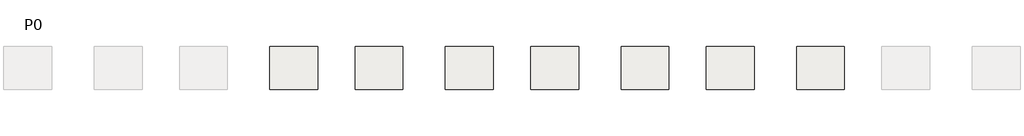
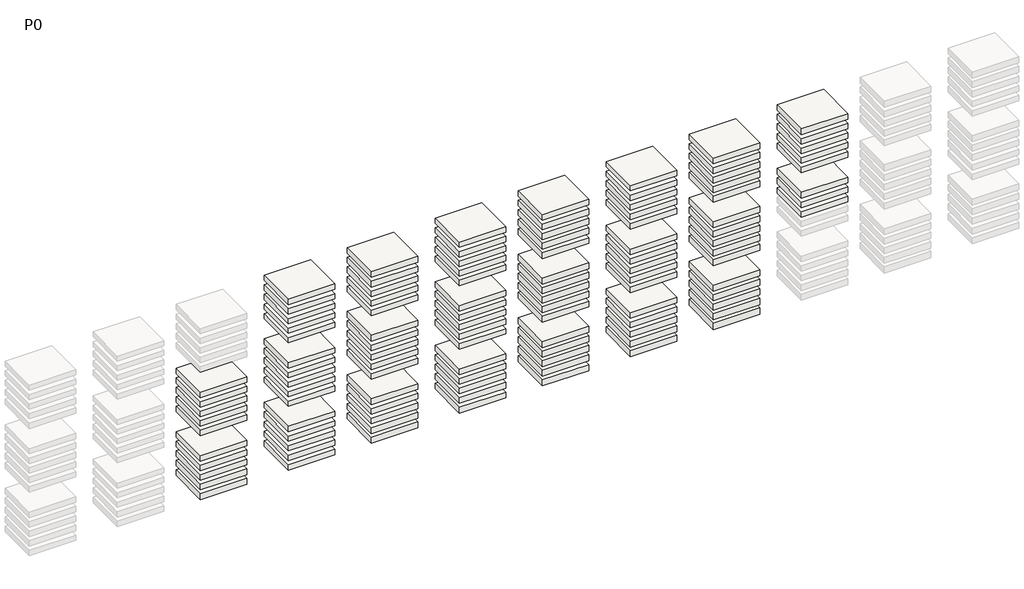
# One storey, part 6 of 11: 108 slabs.
"""IFC4 building model written with IfcOpenShell, lengths in millimetres."""

from ifc_helpers import new_model, si_unit, frame, origin, place, context, project, spatial, polyline, outline, extrude, element, save

model = new_model("IFC4")

# Units and contexts
model_context = context("Model", 3, world=origin())
ifc_project = project(units=[si_unit("LENGTHUNIT", "METRE", prefix="MILLI")], contexts=[model_context])

# Site, building, storey
site = spatial("IfcSite", under=ifc_project)
building = spatial("IfcBuilding", under=site)
storey = spatial("IfcBuildingStorey", under=building, Name="P0", Elevation=0.0)

# Slabs
placement = place(None, origin())
element("IfcSlab", 1, ObjectType="NNEH23 H9", at=placement, inside=storey, context=model_context, shape_type="SweptSolid", body=[
    extrude(outline(polyline([(135850.1564071, 1686.0689128), (135850.1564071, -1013.9310872), (132850.1564071, -1013.9310872), (132850.1564071, 1686.0689128), (135850.1564071, 1686.0689128)])), frame((0.0, 0.0, -11859.5322376), z_axis=(0.0, 0.0, 1.0), x_axis=(1.0, 0.0, 0.0)), (0.0, 0.0, 1.0), 378.0),
])
element("IfcSlab", 2, ObjectType="NNEH23 H9", at=placement, inside=storey, context=model_context, shape_type="SweptSolid", body=[
    extrude(outline(polyline([(135850.1564071, 1686.0689128), (135850.1564071, -1013.9310872), (132850.1564071, -1013.9310872), (132850.1564071, 1686.0689128), (135850.1564071, 1686.0689128)])), frame((0.0, 0.0, -12509.5322376), z_axis=(0.0, 0.0, 1.0), x_axis=(1.0, 0.0, 0.0)), (0.0, 0.0, 1.0), 378.0),
])
element("IfcSlab", 3, ObjectType="NNEH23 H9", at=placement, inside=storey, context=model_context, shape_type="SweptSolid", body=[
    extrude(outline(polyline([(135850.1564071, 1686.0689128), (135850.1564071, -1013.9310872), (132850.1564071, -1013.9310872), (132850.1564071, 1686.0689128), (135850.1564071, 1686.0689128)])), frame((0.0, 0.0, -13159.5322376), z_axis=(0.0, 0.0, 1.0), x_axis=(1.0, 0.0, 0.0)), (0.0, 0.0, 1.0), 378.0),
])
element("IfcSlab", 4, ObjectType="NNEH23 H9", at=placement, inside=storey, context=model_context, shape_type="SweptSolid", body=[
    extrude(outline(polyline([(135850.1564071, 1686.0689128), (135850.1564071, -1013.9310872), (132850.1564071, -1013.9310872), (132850.1564071, 1686.0689128), (135850.1564071, 1686.0689128)])), frame((0.0, 0.0, -13809.5322376), z_axis=(0.0, 0.0, 1.0), x_axis=(1.0, 0.0, 0.0)), (0.0, 0.0, 1.0), 378.0),
])
element("IfcSlab", 5, ObjectType="NNEH23 H9", at=placement, inside=storey, context=model_context, shape_type="SweptSolid", body=[
    extrude(outline(polyline([(135850.1564071, 1686.0689128), (135850.1564071, -1013.9310872), (132850.1564071, -1013.9310872), (132850.1564071, 1686.0689128), (135850.1564071, 1686.0689128)])), frame((0.0, 0.0, -14459.5322376), z_axis=(0.0, 0.0, 1.0), x_axis=(1.0, 0.0, 0.0)), (0.0, 0.0, 1.0), 378.0),
])
element("IfcSlab", 6, ObjectType="NNEH23 H10", at=placement, inside=storey, context=model_context, shape_type="SweptSolid", body=[
    extrude(outline(polyline([(135850.1564071, 1686.0689128), (135850.1564071, -1013.9310872), (132850.1564071, -1013.9310872), (132850.1564071, 1686.0689128), (135850.1564071, 1686.0689128)])), frame((0.0, 0.0, -16189.5323192), z_axis=(0.0, 0.0, 1.0), x_axis=(1.0, 0.0, 0.0)), (0.0, 0.0, 1.0), 388.0),
])
element("IfcSlab", 7, ObjectType="NNEH23 H10", at=placement, inside=storey, context=model_context, shape_type="SweptSolid", body=[
    extrude(outline(polyline([(135850.1564071, 1686.0689128), (135850.1564071, -1013.9310872), (132850.1564071, -1013.9310872), (132850.1564071, 1686.0689128), (135850.1564071, 1686.0689128)])), frame((0.0, 0.0, -16839.5323192), z_axis=(0.0, 0.0, 1.0), x_axis=(1.0, 0.0, 0.0)), (0.0, 0.0, 1.0), 388.0),
])
element("IfcSlab", 8, ObjectType="NNEH23 H10", at=placement, inside=storey, context=model_context, shape_type="SweptSolid", body=[
    extrude(outline(polyline([(135850.1564071, 1686.0689128), (135850.1564071, -1013.9310872), (132850.1564071, -1013.9310872), (132850.1564071, 1686.0689128), (135850.1564071, 1686.0689128)])), frame((0.0, 0.0, -17489.5323192), z_axis=(0.0, 0.0, 1.0), x_axis=(1.0, 0.0, 0.0)), (0.0, 0.0, 1.0), 388.0),
])
element("IfcSlab", 9, ObjectType="NNEH23 H10", at=placement, inside=storey, context=model_context, shape_type="SweptSolid", body=[
    extrude(outline(polyline([(135850.1564071, 1686.0689128), (135850.1564071, -1013.9310872), (132850.1564071, -1013.9310872), (132850.1564071, 1686.0689128), (135850.1564071, 1686.0689128)])), frame((0.0, 0.0, -18139.5323192), z_axis=(0.0, 0.0, 1.0), x_axis=(1.0, 0.0, 0.0)), (0.0, 0.0, 1.0), 388.0),
])
element("IfcSlab", 10, ObjectType="NNEH23 H10", at=placement, inside=storey, context=model_context, shape_type="SweptSolid", body=[
    extrude(outline(polyline([(135850.1564071, 1686.0689128), (135850.1564071, -1013.9310872), (132850.1564071, -1013.9310872), (132850.1564071, 1686.0689128), (135850.1564071, 1686.0689128)])), frame((0.0, 0.0, -18789.5323192), z_axis=(0.0, 0.0, 1.0), x_axis=(1.0, 0.0, 0.0)), (0.0, 0.0, 1.0), 388.0),
])
element("IfcSlab", 11, ObjectType="NNEH24 H5", at=placement, inside=storey, context=model_context, shape_type="SweptSolid", body=[
    extrude(outline(polyline([(141510.1564071, 1686.0689128), (141510.1564071, -1013.9310872), (138510.1564071, -1013.9310872), (138510.1564071, 1686.0689128), (141510.1564071, 1686.0689128)])), frame((0.0, 0.0, -7509.5324008), z_axis=(0.0, 0.0, 1.0), x_axis=(1.0, 0.0, 0.0)), (0.0, 0.0, 1.0), 348.0),
])
element("IfcSlab", 12, ObjectType="NNEH24 H5", at=placement, inside=storey, context=model_context, shape_type="SweptSolid", body=[
    extrude(outline(polyline([(141510.1564071, 1686.0689128), (141510.1564071, -1013.9310872), (138510.1564071, -1013.9310872), (138510.1564071, 1686.0689128), (141510.1564071, 1686.0689128)])), frame((0.0, 0.0, -8159.5323192), z_axis=(0.0, 0.0, 1.0), x_axis=(1.0, 0.0, 0.0)), (0.0, 0.0, 1.0), 348.0),
])
element("IfcSlab", 13, ObjectType="NNEH24 H5", at=placement, inside=storey, context=model_context, shape_type="SweptSolid", body=[
    extrude(outline(polyline([(141510.1564071, 1686.0689128), (141510.1564071, -1013.9310872), (138510.1564071, -1013.9310872), (138510.1564071, 1686.0689128), (141510.1564071, 1686.0689128)])), frame((0.0, 0.0, -8809.5323192), z_axis=(0.0, 0.0, 1.0), x_axis=(1.0, 0.0, 0.0)), (0.0, 0.0, 1.0), 348.0),
])
element("IfcSlab", 14, ObjectType="NNEH24 H5", at=placement, inside=storey, context=model_context, shape_type="SweptSolid", body=[
    extrude(outline(polyline([(141510.1564071, 1686.0689128), (141510.1564071, -1013.9310872), (138510.1564071, -1013.9310872), (138510.1564071, 1686.0689128), (141510.1564071, 1686.0689128)])), frame((0.0, 0.0, -9459.5323192), z_axis=(0.0, 0.0, 1.0), x_axis=(1.0, 0.0, 0.0)), (0.0, 0.0, 1.0), 348.0),
])
element("IfcSlab", 15, ObjectType="NNEH24 H5", at=placement, inside=storey, context=model_context, shape_type="SweptSolid", body=[
    extrude(outline(polyline([(141510.1564071, 1686.0689128), (141510.1564071, -1013.9310872), (138510.1564071, -1013.9310872), (138510.1564071, 1686.0689128), (141510.1564071, 1686.0689128)])), frame((0.0, 0.0, -10109.5324008), z_axis=(0.0, 0.0, 1.0), x_axis=(1.0, 0.0, 0.0)), (0.0, 0.0, 1.0), 348.0),
])
element("IfcSlab", 16, ObjectType="NNEH24 H6", at=placement, inside=storey, context=model_context, shape_type="SweptSolid", body=[
    extrude(outline(polyline([(141510.1564071, 1686.0689128), (141510.1564071, -1013.9310872), (138510.1564071, -1013.9310872), (138510.1564071, 1686.0689128), (141510.1564071, 1686.0689128)])), frame((0.0, 0.0, -11839.5322376), z_axis=(0.0, 0.0, 1.0), x_axis=(1.0, 0.0, 0.0)), (0.0, 0.0, 1.0), 358.0),
])
element("IfcSlab", 17, ObjectType="NNEH24 H6", at=placement, inside=storey, context=model_context, shape_type="SweptSolid", body=[
    extrude(outline(polyline([(141510.1564071, 1686.0689128), (141510.1564071, -1013.9310872), (138510.1564071, -1013.9310872), (138510.1564071, 1686.0689128), (141510.1564071, 1686.0689128)])), frame((0.0, 0.0, -12489.5322376), z_axis=(0.0, 0.0, 1.0), x_axis=(1.0, 0.0, 0.0)), (0.0, 0.0, 1.0), 358.0),
])
element("IfcSlab", 18, ObjectType="NNEH24 H6", at=placement, inside=storey, context=model_context, shape_type="SweptSolid", body=[
    extrude(outline(polyline([(141510.1564071, 1686.0689128), (141510.1564071, -1013.9310872), (138510.1564071, -1013.9310872), (138510.1564071, 1686.0689128), (141510.1564071, 1686.0689128)])), frame((0.0, 0.0, -13139.5322376), z_axis=(0.0, 0.0, 1.0), x_axis=(1.0, 0.0, 0.0)), (0.0, 0.0, 1.0), 358.0),
])
element("IfcSlab", 19, ObjectType="NNEH24 H6", at=placement, inside=storey, context=model_context, shape_type="SweptSolid", body=[
    extrude(outline(polyline([(141510.1564071, 1686.0689128), (141510.1564071, -1013.9310872), (138510.1564071, -1013.9310872), (138510.1564071, 1686.0689128), (141510.1564071, 1686.0689128)])), frame((0.0, 0.0, -13789.5322376), z_axis=(0.0, 0.0, 1.0), x_axis=(1.0, 0.0, 0.0)), (0.0, 0.0, 1.0), 358.0),
])
element("IfcSlab", 20, ObjectType="NNEH24 H6", at=placement, inside=storey, context=model_context, shape_type="SweptSolid", body=[
    extrude(outline(polyline([(141510.1564071, 1686.0689128), (141510.1564071, -1013.9310872), (138510.1564071, -1013.9310872), (138510.1564071, 1686.0689128), (141510.1564071, 1686.0689128)])), frame((0.0, 0.0, -14439.5322376), z_axis=(0.0, 0.0, 1.0), x_axis=(1.0, 0.0, 0.0)), (0.0, 0.0, 1.0), 358.0),
])
element("IfcSlab", 21, ObjectType="NNEH24 H7", at=placement, inside=storey, context=model_context, shape_type="SweptSolid", body=[
    extrude(outline(polyline([(141510.1564071, 1686.0689128), (141510.1564071, -1013.9310872), (138510.1564071, -1013.9310872), (138510.1564071, 1686.0689128), (141510.1564071, 1686.0689128)])), frame((0.0, 0.0, -16169.5323192), z_axis=(0.0, 0.0, 1.0), x_axis=(1.0, 0.0, 0.0)), (0.0, 0.0, 1.0), 368.0),
])
element("IfcSlab", 22, ObjectType="NNEH24 H7", at=placement, inside=storey, context=model_context, shape_type="SweptSolid", body=[
    extrude(outline(polyline([(141510.1564071, 1686.0689128), (141510.1564071, -1013.9310872), (138510.1564071, -1013.9310872), (138510.1564071, 1686.0689128), (141510.1564071, 1686.0689128)])), frame((0.0, 0.0, -16819.5323192), z_axis=(0.0, 0.0, 1.0), x_axis=(1.0, 0.0, 0.0)), (0.0, 0.0, 1.0), 368.0),
])
element("IfcSlab", 23, ObjectType="NNEH24 H7", at=placement, inside=storey, context=model_context, shape_type="SweptSolid", body=[
    extrude(outline(polyline([(141510.1564071, 1686.0689128), (141510.1564071, -1013.9310872), (138510.1564071, -1013.9310872), (138510.1564071, 1686.0689128), (141510.1564071, 1686.0689128)])), frame((0.0, 0.0, -17469.5323192), z_axis=(0.0, 0.0, 1.0), x_axis=(1.0, 0.0, 0.0)), (0.0, 0.0, 1.0), 368.0),
])
element("IfcSlab", 24, ObjectType="NNEH24 H7", at=placement, inside=storey, context=model_context, shape_type="SweptSolid", body=[
    extrude(outline(polyline([(141510.1564071, 1686.0689128), (141510.1564071, -1013.9310872), (138510.1564071, -1013.9310872), (138510.1564071, 1686.0689128), (141510.1564071, 1686.0689128)])), frame((0.0, 0.0, -18119.5323192), z_axis=(0.0, 0.0, 1.0), x_axis=(1.0, 0.0, 0.0)), (0.0, 0.0, 1.0), 368.0),
])
element("IfcSlab", 25, ObjectType="NNEH24 H7", at=placement, inside=storey, context=model_context, shape_type="SweptSolid", body=[
    extrude(outline(polyline([(141510.1564071, 1686.0689128), (141510.1564071, -1013.9310872), (138510.1564071, -1013.9310872), (138510.1564071, 1686.0689128), (141510.1564071, 1686.0689128)])), frame((0.0, 0.0, -18769.5323192), z_axis=(0.0, 0.0, 1.0), x_axis=(1.0, 0.0, 0.0)), (0.0, 0.0, 1.0), 368.0),
])
element("IfcSlab", 26, ObjectType="NNEH24 H8", at=placement, inside=storey, context=model_context, shape_type="SweptSolid", body=[
    extrude(outline(polyline([(146850.1564071, 1686.0689128), (146850.1564071, -1013.9310872), (143850.1564071, -1013.9310872), (143850.1564071, 1686.0689128), (146850.1564071, 1686.0689128)])), frame((0.0, 0.0, -7539.5323192), z_axis=(0.0, 0.0, 1.0), x_axis=(1.0, 0.0, 0.0)), (0.0, 0.0, 1.0), 378.0),
])
element("IfcSlab", 27, ObjectType="NNEH24 H8", at=placement, inside=storey, context=model_context, shape_type="SweptSolid", body=[
    extrude(outline(polyline([(146850.1564071, 1686.0689128), (146850.1564071, -1013.9310872), (143850.1564071, -1013.9310872), (143850.1564071, 1686.0689128), (146850.1564071, 1686.0689128)])), frame((0.0, 0.0, -8189.5323192), z_axis=(0.0, 0.0, 1.0), x_axis=(1.0, 0.0, 0.0)), (0.0, 0.0, 1.0), 378.0),
])
element("IfcSlab", 28, ObjectType="NNEH24 H8", at=placement, inside=storey, context=model_context, shape_type="SweptSolid", body=[
    extrude(outline(polyline([(146850.1564071, 1686.0689128), (146850.1564071, -1013.9310872), (143850.1564071, -1013.9310872), (143850.1564071, 1686.0689128), (146850.1564071, 1686.0689128)])), frame((0.0, 0.0, -8839.5323192), z_axis=(0.0, 0.0, 1.0), x_axis=(1.0, 0.0, 0.0)), (0.0, 0.0, 1.0), 378.0),
])
element("IfcSlab", 29, ObjectType="NNEH24 H8", at=placement, inside=storey, context=model_context, shape_type="SweptSolid", body=[
    extrude(outline(polyline([(146850.1564071, 1686.0689128), (146850.1564071, -1013.9310872), (143850.1564071, -1013.9310872), (143850.1564071, 1686.0689128), (146850.1564071, 1686.0689128)])), frame((0.0, 0.0, -9489.5323192), z_axis=(0.0, 0.0, 1.0), x_axis=(1.0, 0.0, 0.0)), (0.0, 0.0, 1.0), 378.0),
])
element("IfcSlab", 30, ObjectType="NNEH24 H8", at=placement, inside=storey, context=model_context, shape_type="SweptSolid", body=[
    extrude(outline(polyline([(146850.1564071, 1686.0689128), (146850.1564071, -1013.9310872), (143850.1564071, -1013.9310872), (143850.1564071, 1686.0689128), (146850.1564071, 1686.0689128)])), frame((0.0, 0.0, -10139.5324008), z_axis=(0.0, 0.0, 1.0), x_axis=(1.0, 0.0, 0.0)), (0.0, 0.0, 1.0), 378.0),
])
element("IfcSlab", 31, ObjectType="NNEH24 H9", at=placement, inside=storey, context=model_context, shape_type="SweptSolid", body=[
    extrude(outline(polyline([(146850.1564071, 1686.0689128), (146850.1564071, -1013.9310872), (143850.1564071, -1013.9310872), (143850.1564071, 1686.0689128), (146850.1564071, 1686.0689128)])), frame((0.0, 0.0, -11869.5322376), z_axis=(0.0, 0.0, 1.0), x_axis=(1.0, 0.0, 0.0)), (0.0, 0.0, 1.0), 388.0),
])
element("IfcSlab", 32, ObjectType="NNEH24 H9", at=placement, inside=storey, context=model_context, shape_type="SweptSolid", body=[
    extrude(outline(polyline([(146850.1564071, 1686.0689128), (146850.1564071, -1013.9310872), (143850.1564071, -1013.9310872), (143850.1564071, 1686.0689128), (146850.1564071, 1686.0689128)])), frame((0.0, 0.0, -12519.5322376), z_axis=(0.0, 0.0, 1.0), x_axis=(1.0, 0.0, 0.0)), (0.0, 0.0, 1.0), 388.0),
])
element("IfcSlab", 33, ObjectType="NNEH24 H9", at=placement, inside=storey, context=model_context, shape_type="SweptSolid", body=[
    extrude(outline(polyline([(146850.1564071, 1686.0689128), (146850.1564071, -1013.9310872), (143850.1564071, -1013.9310872), (143850.1564071, 1686.0689128), (146850.1564071, 1686.0689128)])), frame((0.0, 0.0, -13169.5322376), z_axis=(0.0, 0.0, 1.0), x_axis=(1.0, 0.0, 0.0)), (0.0, 0.0, 1.0), 388.0),
])
element("IfcSlab", 34, ObjectType="NNEH24 H9", at=placement, inside=storey, context=model_context, shape_type="SweptSolid", body=[
    extrude(outline(polyline([(146850.1564071, 1686.0689128), (146850.1564071, -1013.9310872), (143850.1564071, -1013.9310872), (143850.1564071, 1686.0689128), (146850.1564071, 1686.0689128)])), frame((0.0, 0.0, -13819.5322376), z_axis=(0.0, 0.0, 1.0), x_axis=(1.0, 0.0, 0.0)), (0.0, 0.0, 1.0), 388.0),
])
element("IfcSlab", 35, ObjectType="NNEH24 H9", at=placement, inside=storey, context=model_context, shape_type="SweptSolid", body=[
    extrude(outline(polyline([(146850.1564071, 1686.0689128), (146850.1564071, -1013.9310872), (143850.1564071, -1013.9310872), (143850.1564071, 1686.0689128), (146850.1564071, 1686.0689128)])), frame((0.0, 0.0, -14469.5322376), z_axis=(0.0, 0.0, 1.0), x_axis=(1.0, 0.0, 0.0)), (0.0, 0.0, 1.0), 388.0),
])
element("IfcSlab", 36, ObjectType="NNEH24 H10", at=placement, inside=storey, context=model_context, shape_type="SweptSolid", body=[
    extrude(outline(polyline([(146850.1564071, 1686.0689128), (146850.1564071, -1013.9310872), (143850.1564071, -1013.9310872), (143850.1564071, 1686.0689128), (146850.1564071, 1686.0689128)])), frame((0.0, 0.0, -16199.5323192), z_axis=(0.0, 0.0, 1.0), x_axis=(1.0, 0.0, 0.0)), (0.0, 0.0, 1.0), 398.0),
])
element("IfcSlab", 37, ObjectType="NNEH24 H10", at=placement, inside=storey, context=model_context, shape_type="SweptSolid", body=[
    extrude(outline(polyline([(146850.1564071, 1686.0689128), (146850.1564071, -1013.9310872), (143850.1564071, -1013.9310872), (143850.1564071, 1686.0689128), (146850.1564071, 1686.0689128)])), frame((0.0, 0.0, -16849.5323192), z_axis=(0.0, 0.0, 1.0), x_axis=(1.0, 0.0, 0.0)), (0.0, 0.0, 1.0), 398.0),
])
element("IfcSlab", 38, ObjectType="NNEH24 H10", at=placement, inside=storey, context=model_context, shape_type="SweptSolid", body=[
    extrude(outline(polyline([(146850.1564071, 1686.0689128), (146850.1564071, -1013.9310872), (143850.1564071, -1013.9310872), (143850.1564071, 1686.0689128), (146850.1564071, 1686.0689128)])), frame((0.0, 0.0, -17499.5323192), z_axis=(0.0, 0.0, 1.0), x_axis=(1.0, 0.0, 0.0)), (0.0, 0.0, 1.0), 398.0),
])
element("IfcSlab", 39, ObjectType="NNEH24 H10", at=placement, inside=storey, context=model_context, shape_type="SweptSolid", body=[
    extrude(outline(polyline([(146850.1564071, 1686.0689128), (146850.1564071, -1013.9310872), (143850.1564071, -1013.9310872), (143850.1564071, 1686.0689128), (146850.1564071, 1686.0689128)])), frame((0.0, 0.0, -18149.5323192), z_axis=(0.0, 0.0, 1.0), x_axis=(1.0, 0.0, 0.0)), (0.0, 0.0, 1.0), 398.0),
])
element("IfcSlab", 40, ObjectType="NNEH24 H10", at=placement, inside=storey, context=model_context, shape_type="SweptSolid", body=[
    extrude(outline(polyline([(146850.1564071, 1686.0689128), (146850.1564071, -1013.9310872), (143850.1564071, -1013.9310872), (143850.1564071, 1686.0689128), (146850.1564071, 1686.0689128)])), frame((0.0, 0.0, -18799.5323192), z_axis=(0.0, 0.0, 1.0), x_axis=(1.0, 0.0, 0.0)), (0.0, 0.0, 1.0), 398.0),
])
element("IfcSlab", 41, ObjectType="NNEH25 H5", at=placement, inside=storey, context=model_context, shape_type="SweptSolid", body=[
    extrude(outline(polyline([(152510.1564071, 1686.0689128), (152510.1564071, -1013.9310872), (149510.1564071, -1013.9310872), (149510.1564071, 1686.0689128), (152510.1564071, 1686.0689128)])), frame((0.0, 0.0, -7479.5324008), z_axis=(0.0, 0.0, 1.0), x_axis=(1.0, 0.0, 0.0)), (0.0, 0.0, 1.0), 358.0),
])
element("IfcSlab", 42, ObjectType="NNEH25 H5", at=placement, inside=storey, context=model_context, shape_type="SweptSolid", body=[
    extrude(outline(polyline([(152510.1564071, 1686.0689128), (152510.1564071, -1013.9310872), (149510.1564071, -1013.9310872), (149510.1564071, 1686.0689128), (152510.1564071, 1686.0689128)])), frame((0.0, 0.0, -8129.5323192), z_axis=(0.0, 0.0, 1.0), x_axis=(1.0, 0.0, 0.0)), (0.0, 0.0, 1.0), 358.0),
])
element("IfcSlab", 43, ObjectType="NNEH25 H5", at=placement, inside=storey, context=model_context, shape_type="SweptSolid", body=[
    extrude(outline(polyline([(152510.1564071, 1686.0689128), (152510.1564071, -1013.9310872), (149510.1564071, -1013.9310872), (149510.1564071, 1686.0689128), (152510.1564071, 1686.0689128)])), frame((0.0, 0.0, -8779.5323192), z_axis=(0.0, 0.0, 1.0), x_axis=(1.0, 0.0, 0.0)), (0.0, 0.0, 1.0), 358.0),
])
element("IfcSlab", 44, ObjectType="NNEH25 H5", at=placement, inside=storey, context=model_context, shape_type="SweptSolid", body=[
    extrude(outline(polyline([(152510.1564071, 1686.0689128), (152510.1564071, -1013.9310872), (149510.1564071, -1013.9310872), (149510.1564071, 1686.0689128), (152510.1564071, 1686.0689128)])), frame((0.0, 0.0, -9429.5323192), z_axis=(0.0, 0.0, 1.0), x_axis=(1.0, 0.0, 0.0)), (0.0, 0.0, 1.0), 358.0),
])
element("IfcSlab", 45, ObjectType="NNEH25 H5", at=placement, inside=storey, context=model_context, shape_type="SweptSolid", body=[
    extrude(outline(polyline([(152510.1564071, 1686.0689128), (152510.1564071, -1013.9310872), (149510.1564071, -1013.9310872), (149510.1564071, 1686.0689128), (152510.1564071, 1686.0689128)])), frame((0.0, 0.0, -10079.5324008), z_axis=(0.0, 0.0, 1.0), x_axis=(1.0, 0.0, 0.0)), (0.0, 0.0, 1.0), 358.0),
])
element("IfcSlab", 46, ObjectType="NNEH25 H6", at=placement, inside=storey, context=model_context, shape_type="SweptSolid", body=[
    extrude(outline(polyline([(152510.1564071, 1686.0689128), (152510.1564071, -1013.9310872), (149510.1564071, -1013.9310872), (149510.1564071, 1686.0689128), (152510.1564071, 1686.0689128)])), frame((0.0, 0.0, -11809.5322376), z_axis=(0.0, 0.0, 1.0), x_axis=(1.0, 0.0, 0.0)), (0.0, 0.0, 1.0), 368.0),
])
element("IfcSlab", 47, ObjectType="NNEH25 H6", at=placement, inside=storey, context=model_context, shape_type="SweptSolid", body=[
    extrude(outline(polyline([(152510.1564071, 1686.0689128), (152510.1564071, -1013.9310872), (149510.1564071, -1013.9310872), (149510.1564071, 1686.0689128), (152510.1564071, 1686.0689128)])), frame((0.0, 0.0, -12459.5322376), z_axis=(0.0, 0.0, 1.0), x_axis=(1.0, 0.0, 0.0)), (0.0, 0.0, 1.0), 368.0),
])
element("IfcSlab", 48, ObjectType="NNEH25 H6", at=placement, inside=storey, context=model_context, shape_type="SweptSolid", body=[
    extrude(outline(polyline([(152510.1564071, 1686.0689128), (152510.1564071, -1013.9310872), (149510.1564071, -1013.9310872), (149510.1564071, 1686.0689128), (152510.1564071, 1686.0689128)])), frame((0.0, 0.0, -13109.5322376), z_axis=(0.0, 0.0, 1.0), x_axis=(1.0, 0.0, 0.0)), (0.0, 0.0, 1.0), 368.0),
])
element("IfcSlab", 49, ObjectType="NNEH25 H6", at=placement, inside=storey, context=model_context, shape_type="SweptSolid", body=[
    extrude(outline(polyline([(152510.1564071, 1686.0689128), (152510.1564071, -1013.9310872), (149510.1564071, -1013.9310872), (149510.1564071, 1686.0689128), (152510.1564071, 1686.0689128)])), frame((0.0, 0.0, -13759.5322376), z_axis=(0.0, 0.0, 1.0), x_axis=(1.0, 0.0, 0.0)), (0.0, 0.0, 1.0), 368.0),
])
element("IfcSlab", 50, ObjectType="NNEH25 H6", at=placement, inside=storey, context=model_context, shape_type="SweptSolid", body=[
    extrude(outline(polyline([(152510.1564071, 1686.0689128), (152510.1564071, -1013.9310872), (149510.1564071, -1013.9310872), (149510.1564071, 1686.0689128), (152510.1564071, 1686.0689128)])), frame((0.0, 0.0, -14409.5322376), z_axis=(0.0, 0.0, 1.0), x_axis=(1.0, 0.0, 0.0)), (0.0, 0.0, 1.0), 368.0),
])
element("IfcSlab", 51, ObjectType="NNEH25 H7", at=placement, inside=storey, context=model_context, shape_type="SweptSolid", body=[
    extrude(outline(polyline([(152510.1564071, 1686.0689128), (152510.1564071, -1013.9310872), (149510.1564071, -1013.9310872), (149510.1564071, 1686.0689128), (152510.1564071, 1686.0689128)])), frame((0.0, 0.0, -16139.5323192), z_axis=(0.0, 0.0, 1.0), x_axis=(1.0, 0.0, 0.0)), (0.0, 0.0, 1.0), 378.0),
])
element("IfcSlab", 52, ObjectType="NNEH25 H7", at=placement, inside=storey, context=model_context, shape_type="SweptSolid", body=[
    extrude(outline(polyline([(152510.1564071, 1686.0689128), (152510.1564071, -1013.9310872), (149510.1564071, -1013.9310872), (149510.1564071, 1686.0689128), (152510.1564071, 1686.0689128)])), frame((0.0, 0.0, -16789.5323192), z_axis=(0.0, 0.0, 1.0), x_axis=(1.0, 0.0, 0.0)), (0.0, 0.0, 1.0), 378.0),
])
element("IfcSlab", 53, ObjectType="NNEH25 H7", at=placement, inside=storey, context=model_context, shape_type="SweptSolid", body=[
    extrude(outline(polyline([(152510.1564071, 1686.0689128), (152510.1564071, -1013.9310872), (149510.1564071, -1013.9310872), (149510.1564071, 1686.0689128), (152510.1564071, 1686.0689128)])), frame((0.0, 0.0, -17439.5323192), z_axis=(0.0, 0.0, 1.0), x_axis=(1.0, 0.0, 0.0)), (0.0, 0.0, 1.0), 378.0),
])
element("IfcSlab", 54, ObjectType="NNEH25 H7", at=placement, inside=storey, context=model_context, shape_type="SweptSolid", body=[
    extrude(outline(polyline([(152510.1564071, 1686.0689128), (152510.1564071, -1013.9310872), (149510.1564071, -1013.9310872), (149510.1564071, 1686.0689128), (152510.1564071, 1686.0689128)])), frame((0.0, 0.0, -18089.5323192), z_axis=(0.0, 0.0, 1.0), x_axis=(1.0, 0.0, 0.0)), (0.0, 0.0, 1.0), 378.0),
])
element("IfcSlab", 55, ObjectType="NNEH25 H7", at=placement, inside=storey, context=model_context, shape_type="SweptSolid", body=[
    extrude(outline(polyline([(152510.1564071, 1686.0689128), (152510.1564071, -1013.9310872), (149510.1564071, -1013.9310872), (149510.1564071, 1686.0689128), (152510.1564071, 1686.0689128)])), frame((0.0, 0.0, -18739.5323192), z_axis=(0.0, 0.0, 1.0), x_axis=(1.0, 0.0, 0.0)), (0.0, 0.0, 1.0), 378.0),
])
element("IfcSlab", 56, ObjectType="NNEH25 H8", at=placement, inside=storey, context=model_context, shape_type="SweptSolid", body=[
    extrude(outline(polyline([(157850.1564071, 1686.0689128), (157850.1564071, -1013.9310872), (154850.1564071, -1013.9310872), (154850.1564071, 1686.0689128), (157850.1564071, 1686.0689128)])), frame((0.0, 0.0, -7509.5323192), z_axis=(0.0, 0.0, 1.0), x_axis=(1.0, 0.0, 0.0)), (0.0, 0.0, 1.0), 388.0),
])
element("IfcSlab", 57, ObjectType="NNEH25 H8", at=placement, inside=storey, context=model_context, shape_type="SweptSolid", body=[
    extrude(outline(polyline([(157850.1564071, 1686.0689128), (157850.1564071, -1013.9310872), (154850.1564071, -1013.9310872), (154850.1564071, 1686.0689128), (157850.1564071, 1686.0689128)])), frame((0.0, 0.0, -8159.5323192), z_axis=(0.0, 0.0, 1.0), x_axis=(1.0, 0.0, 0.0)), (0.0, 0.0, 1.0), 388.0),
])
element("IfcSlab", 58, ObjectType="NNEH25 H8", at=placement, inside=storey, context=model_context, shape_type="SweptSolid", body=[
    extrude(outline(polyline([(157850.1564071, 1686.0689128), (157850.1564071, -1013.9310872), (154850.1564071, -1013.9310872), (154850.1564071, 1686.0689128), (157850.1564071, 1686.0689128)])), frame((0.0, 0.0, -8809.5323192), z_axis=(0.0, 0.0, 1.0), x_axis=(1.0, 0.0, 0.0)), (0.0, 0.0, 1.0), 388.0),
])
element("IfcSlab", 59, ObjectType="NNEH25 H8", at=placement, inside=storey, context=model_context, shape_type="SweptSolid", body=[
    extrude(outline(polyline([(157850.1564071, 1686.0689128), (157850.1564071, -1013.9310872), (154850.1564071, -1013.9310872), (154850.1564071, 1686.0689128), (157850.1564071, 1686.0689128)])), frame((0.0, 0.0, -9459.5323192), z_axis=(0.0, 0.0, 1.0), x_axis=(1.0, 0.0, 0.0)), (0.0, 0.0, 1.0), 388.0),
])
element("IfcSlab", 60, ObjectType="NNEH25 H8", at=placement, inside=storey, context=model_context, shape_type="SweptSolid", body=[
    extrude(outline(polyline([(157850.1564071, 1686.0689128), (157850.1564071, -1013.9310872), (154850.1564071, -1013.9310872), (154850.1564071, 1686.0689128), (157850.1564071, 1686.0689128)])), frame((0.0, 0.0, -10109.5324008), z_axis=(0.0, 0.0, 1.0), x_axis=(1.0, 0.0, 0.0)), (0.0, 0.0, 1.0), 388.0),
])
element("IfcSlab", 61, ObjectType="NNEH25 H9", at=placement, inside=storey, context=model_context, shape_type="SweptSolid", body=[
    extrude(outline(polyline([(157850.1564071, 1686.0689128), (157850.1564071, -1013.9310872), (154850.1564071, -1013.9310872), (154850.1564071, 1686.0689128), (157850.1564071, 1686.0689128)])), frame((0.0, 0.0, -11839.5322376), z_axis=(0.0, 0.0, 1.0), x_axis=(1.0, 0.0, 0.0)), (0.0, 0.0, 1.0), 398.0),
])
element("IfcSlab", 62, ObjectType="NNEH25 H9", at=placement, inside=storey, context=model_context, shape_type="SweptSolid", body=[
    extrude(outline(polyline([(157850.1564071, 1686.0689128), (157850.1564071, -1013.9310872), (154850.1564071, -1013.9310872), (154850.1564071, 1686.0689128), (157850.1564071, 1686.0689128)])), frame((0.0, 0.0, -12489.5322376), z_axis=(0.0, 0.0, 1.0), x_axis=(1.0, 0.0, 0.0)), (0.0, 0.0, 1.0), 398.0),
])
element("IfcSlab", 63, ObjectType="NNEH25 H9", at=placement, inside=storey, context=model_context, shape_type="SweptSolid", body=[
    extrude(outline(polyline([(157850.1564071, 1686.0689128), (157850.1564071, -1013.9310872), (154850.1564071, -1013.9310872), (154850.1564071, 1686.0689128), (157850.1564071, 1686.0689128)])), frame((0.0, 0.0, -13139.5322376), z_axis=(0.0, 0.0, 1.0), x_axis=(1.0, 0.0, 0.0)), (0.0, 0.0, 1.0), 398.0),
])
element("IfcSlab", 64, ObjectType="NNEH25 H9", at=placement, inside=storey, context=model_context, shape_type="SweptSolid", body=[
    extrude(outline(polyline([(157850.1564071, 1686.0689128), (157850.1564071, -1013.9310872), (154850.1564071, -1013.9310872), (154850.1564071, 1686.0689128), (157850.1564071, 1686.0689128)])), frame((0.0, 0.0, -13789.5322376), z_axis=(0.0, 0.0, 1.0), x_axis=(1.0, 0.0, 0.0)), (0.0, 0.0, 1.0), 398.0),
])
element("IfcSlab", 65, ObjectType="NNEH25 H9", at=placement, inside=storey, context=model_context, shape_type="SweptSolid", body=[
    extrude(outline(polyline([(157850.1564071, 1686.0689128), (157850.1564071, -1013.9310872), (154850.1564071, -1013.9310872), (154850.1564071, 1686.0689128), (157850.1564071, 1686.0689128)])), frame((0.0, 0.0, -14439.5322376), z_axis=(0.0, 0.0, 1.0), x_axis=(1.0, 0.0, 0.0)), (0.0, 0.0, 1.0), 398.0),
])
element("IfcSlab", 66, ObjectType="NNEH25 H10", at=placement, inside=storey, context=model_context, shape_type="SweptSolid", body=[
    extrude(outline(polyline([(157850.1564071, 1686.0689128), (157850.1564071, -1013.9310872), (154850.1564071, -1013.9310872), (154850.1564071, 1686.0689128), (157850.1564071, 1686.0689128)])), frame((0.0, 0.0, -16169.5323192), z_axis=(0.0, 0.0, 1.0), x_axis=(1.0, 0.0, 0.0)), (0.0, 0.0, 1.0), 408.0),
])
element("IfcSlab", 67, ObjectType="NNEH25 H10", at=placement, inside=storey, context=model_context, shape_type="SweptSolid", body=[
    extrude(outline(polyline([(157850.1564071, 1686.0689128), (157850.1564071, -1013.9310872), (154850.1564071, -1013.9310872), (154850.1564071, 1686.0689128), (157850.1564071, 1686.0689128)])), frame((0.0, 0.0, -16819.5323192), z_axis=(0.0, 0.0, 1.0), x_axis=(1.0, 0.0, 0.0)), (0.0, 0.0, 1.0), 408.0),
])
element("IfcSlab", 68, ObjectType="NNEH25 H10", at=placement, inside=storey, context=model_context, shape_type="SweptSolid", body=[
    extrude(outline(polyline([(157850.1564071, 1686.0689128), (157850.1564071, -1013.9310872), (154850.1564071, -1013.9310872), (154850.1564071, 1686.0689128), (157850.1564071, 1686.0689128)])), frame((0.0, 0.0, -17469.5323192), z_axis=(0.0, 0.0, 1.0), x_axis=(1.0, 0.0, 0.0)), (0.0, 0.0, 1.0), 408.0),
])
element("IfcSlab", 69, ObjectType="NNEH25 H10", at=placement, inside=storey, context=model_context, shape_type="SweptSolid", body=[
    extrude(outline(polyline([(157850.1564071, 1686.0689128), (157850.1564071, -1013.9310872), (154850.1564071, -1013.9310872), (154850.1564071, 1686.0689128), (157850.1564071, 1686.0689128)])), frame((0.0, 0.0, -18119.5323192), z_axis=(0.0, 0.0, 1.0), x_axis=(1.0, 0.0, 0.0)), (0.0, 0.0, 1.0), 408.0),
])
element("IfcSlab", 70, ObjectType="NNEH25 H10", at=placement, inside=storey, context=model_context, shape_type="SweptSolid", body=[
    extrude(outline(polyline([(157850.1564071, 1686.0689128), (157850.1564071, -1013.9310872), (154850.1564071, -1013.9310872), (154850.1564071, 1686.0689128), (157850.1564071, 1686.0689128)])), frame((0.0, 0.0, -18769.5323192), z_axis=(0.0, 0.0, 1.0), x_axis=(1.0, 0.0, 0.0)), (0.0, 0.0, 1.0), 408.0),
])
element("IfcSlab", 71, ObjectType="NNEH26 H5", at=placement, inside=storey, context=model_context, shape_type="SweptSolid", body=[
    extrude(outline(polyline([(163510.1564071, 1686.0689128), (163510.1564071, -1013.9310872), (160510.1564071, -1013.9310872), (160510.1564071, 1686.0689128), (163510.1564071, 1686.0689128)])), frame((0.0, 0.0, -7489.5324008), z_axis=(0.0, 0.0, 1.0), x_axis=(1.0, 0.0, 0.0)), (0.0, 0.0, 1.0), 368.0),
])
element("IfcSlab", 72, ObjectType="NNEH26 H5", at=placement, inside=storey, context=model_context, shape_type="SweptSolid", body=[
    extrude(outline(polyline([(163510.1564071, 1686.0689128), (163510.1564071, -1013.9310872), (160510.1564071, -1013.9310872), (160510.1564071, 1686.0689128), (163510.1564071, 1686.0689128)])), frame((0.0, 0.0, -8139.5323192), z_axis=(0.0, 0.0, 1.0), x_axis=(1.0, 0.0, 0.0)), (0.0, 0.0, 1.0), 368.0),
])
element("IfcSlab", 73, ObjectType="NNEH26 H5", at=placement, inside=storey, context=model_context, shape_type="SweptSolid", body=[
    extrude(outline(polyline([(163510.1564071, 1686.0689128), (163510.1564071, -1013.9310872), (160510.1564071, -1013.9310872), (160510.1564071, 1686.0689128), (163510.1564071, 1686.0689128)])), frame((0.0, 0.0, -8789.5323192), z_axis=(0.0, 0.0, 1.0), x_axis=(1.0, 0.0, 0.0)), (0.0, 0.0, 1.0), 368.0),
])
element("IfcSlab", 74, ObjectType="NNEH26 H5", at=placement, inside=storey, context=model_context, shape_type="SweptSolid", body=[
    extrude(outline(polyline([(163510.1564071, 1686.0689128), (163510.1564071, -1013.9310872), (160510.1564071, -1013.9310872), (160510.1564071, 1686.0689128), (163510.1564071, 1686.0689128)])), frame((0.0, 0.0, -9439.5323192), z_axis=(0.0, 0.0, 1.0), x_axis=(1.0, 0.0, 0.0)), (0.0, 0.0, 1.0), 368.0),
])
element("IfcSlab", 75, ObjectType="NNEH26 H5", at=placement, inside=storey, context=model_context, shape_type="SweptSolid", body=[
    extrude(outline(polyline([(163510.1564071, 1686.0689128), (163510.1564071, -1013.9310872), (160510.1564071, -1013.9310872), (160510.1564071, 1686.0689128), (163510.1564071, 1686.0689128)])), frame((0.0, 0.0, -10089.5324008), z_axis=(0.0, 0.0, 1.0), x_axis=(1.0, 0.0, 0.0)), (0.0, 0.0, 1.0), 368.0),
])
element("IfcSlab", 76, ObjectType="NNEH26 H6", at=placement, inside=storey, context=model_context, shape_type="SweptSolid", body=[
    extrude(outline(polyline([(163510.1564071, 1686.0689128), (163510.1564071, -1013.9310872), (160510.1564071, -1013.9310872), (160510.1564071, 1686.0689128), (163510.1564071, 1686.0689128)])), frame((0.0, 0.0, -11819.5322376), z_axis=(0.0, 0.0, 1.0), x_axis=(1.0, 0.0, 0.0)), (0.0, 0.0, 1.0), 378.0),
])
element("IfcSlab", 77, ObjectType="NNEH26 H6", at=placement, inside=storey, context=model_context, shape_type="SweptSolid", body=[
    extrude(outline(polyline([(163510.1564071, 1686.0689128), (163510.1564071, -1013.9310872), (160510.1564071, -1013.9310872), (160510.1564071, 1686.0689128), (163510.1564071, 1686.0689128)])), frame((0.0, 0.0, -12469.5322376), z_axis=(0.0, 0.0, 1.0), x_axis=(1.0, 0.0, 0.0)), (0.0, 0.0, 1.0), 378.0),
])
element("IfcSlab", 78, ObjectType="NNEH26 H6", at=placement, inside=storey, context=model_context, shape_type="SweptSolid", body=[
    extrude(outline(polyline([(163510.1564071, 1686.0689128), (163510.1564071, -1013.9310872), (160510.1564071, -1013.9310872), (160510.1564071, 1686.0689128), (163510.1564071, 1686.0689128)])), frame((0.0, 0.0, -13119.5322376), z_axis=(0.0, 0.0, 1.0), x_axis=(1.0, 0.0, 0.0)), (0.0, 0.0, 1.0), 378.0),
])
element("IfcSlab", 79, ObjectType="NNEH26 H6", at=placement, inside=storey, context=model_context, shape_type="SweptSolid", body=[
    extrude(outline(polyline([(163510.1564071, 1686.0689128), (163510.1564071, -1013.9310872), (160510.1564071, -1013.9310872), (160510.1564071, 1686.0689128), (163510.1564071, 1686.0689128)])), frame((0.0, 0.0, -13769.5322376), z_axis=(0.0, 0.0, 1.0), x_axis=(1.0, 0.0, 0.0)), (0.0, 0.0, 1.0), 378.0),
])
element("IfcSlab", 80, ObjectType="NNEH26 H6", at=placement, inside=storey, context=model_context, shape_type="SweptSolid", body=[
    extrude(outline(polyline([(163510.1564071, 1686.0689128), (163510.1564071, -1013.9310872), (160510.1564071, -1013.9310872), (160510.1564071, 1686.0689128), (163510.1564071, 1686.0689128)])), frame((0.0, 0.0, -14419.5322376), z_axis=(0.0, 0.0, 1.0), x_axis=(1.0, 0.0, 0.0)), (0.0, 0.0, 1.0), 378.0),
])
element("IfcSlab", 81, ObjectType="NNEH26 H7", at=placement, inside=storey, context=model_context, shape_type="SweptSolid", body=[
    extrude(outline(polyline([(163510.1564071, 1686.0689128), (163510.1564071, -1013.9310872), (160510.1564071, -1013.9310872), (160510.1564071, 1686.0689128), (163510.1564071, 1686.0689128)])), frame((0.0, 0.0, -16149.5323192), z_axis=(0.0, 0.0, 1.0), x_axis=(1.0, 0.0, 0.0)), (0.0, 0.0, 1.0), 388.0),
])
element("IfcSlab", 82, ObjectType="NNEH26 H7", at=placement, inside=storey, context=model_context, shape_type="SweptSolid", body=[
    extrude(outline(polyline([(163510.1564071, 1686.0689128), (163510.1564071, -1013.9310872), (160510.1564071, -1013.9310872), (160510.1564071, 1686.0689128), (163510.1564071, 1686.0689128)])), frame((0.0, 0.0, -16799.5323192), z_axis=(0.0, 0.0, 1.0), x_axis=(1.0, 0.0, 0.0)), (0.0, 0.0, 1.0), 388.0),
])
element("IfcSlab", 83, ObjectType="NNEH26 H7", at=placement, inside=storey, context=model_context, shape_type="SweptSolid", body=[
    extrude(outline(polyline([(163510.1564071, 1686.0689128), (163510.1564071, -1013.9310872), (160510.1564071, -1013.9310872), (160510.1564071, 1686.0689128), (163510.1564071, 1686.0689128)])), frame((0.0, 0.0, -17449.5323192), z_axis=(0.0, 0.0, 1.0), x_axis=(1.0, 0.0, 0.0)), (0.0, 0.0, 1.0), 388.0),
])
element("IfcSlab", 84, ObjectType="NNEH26 H7", at=placement, inside=storey, context=model_context, shape_type="SweptSolid", body=[
    extrude(outline(polyline([(163510.1564071, 1686.0689128), (163510.1564071, -1013.9310872), (160510.1564071, -1013.9310872), (160510.1564071, 1686.0689128), (163510.1564071, 1686.0689128)])), frame((0.0, 0.0, -18099.5323192), z_axis=(0.0, 0.0, 1.0), x_axis=(1.0, 0.0, 0.0)), (0.0, 0.0, 1.0), 388.0),
])
element("IfcSlab", 85, ObjectType="NNEH26 H7", at=placement, inside=storey, context=model_context, shape_type="SweptSolid", body=[
    extrude(outline(polyline([(163510.1564071, 1686.0689128), (163510.1564071, -1013.9310872), (160510.1564071, -1013.9310872), (160510.1564071, 1686.0689128), (163510.1564071, 1686.0689128)])), frame((0.0, 0.0, -18749.5323192), z_axis=(0.0, 0.0, 1.0), x_axis=(1.0, 0.0, 0.0)), (0.0, 0.0, 1.0), 388.0),
])
element("IfcSlab", 86, ObjectType="NNEH26 H8", at=placement, inside=storey, context=model_context, shape_type="SweptSolid", body=[
    extrude(outline(polyline([(168850.1564071, 1686.0689128), (168850.1564071, -1013.9310872), (165850.1564071, -1013.9310872), (165850.1564071, 1686.0689128), (168850.1564071, 1686.0689128)])), frame((0.0, 0.0, -7519.5323192), z_axis=(0.0, 0.0, 1.0), x_axis=(1.0, 0.0, 0.0)), (0.0, 0.0, 1.0), 398.0),
])
element("IfcSlab", 87, ObjectType="NNEH26 H8", at=placement, inside=storey, context=model_context, shape_type="SweptSolid", body=[
    extrude(outline(polyline([(168850.1564071, 1686.0689128), (168850.1564071, -1013.9310872), (165850.1564071, -1013.9310872), (165850.1564071, 1686.0689128), (168850.1564071, 1686.0689128)])), frame((0.0, 0.0, -8169.5323192), z_axis=(0.0, 0.0, 1.0), x_axis=(1.0, 0.0, 0.0)), (0.0, 0.0, 1.0), 398.0),
])
element("IfcSlab", 88, ObjectType="NNEH26 H8", at=placement, inside=storey, context=model_context, shape_type="SweptSolid", body=[
    extrude(outline(polyline([(168850.1564071, 1686.0689128), (168850.1564071, -1013.9310872), (165850.1564071, -1013.9310872), (165850.1564071, 1686.0689128), (168850.1564071, 1686.0689128)])), frame((0.0, 0.0, -8819.5323192), z_axis=(0.0, 0.0, 1.0), x_axis=(1.0, 0.0, 0.0)), (0.0, 0.0, 1.0), 398.0),
])
element("IfcSlab", 89, ObjectType="NNEH26 H8", at=placement, inside=storey, context=model_context, shape_type="SweptSolid", body=[
    extrude(outline(polyline([(168850.1564071, 1686.0689128), (168850.1564071, -1013.9310872), (165850.1564071, -1013.9310872), (165850.1564071, 1686.0689128), (168850.1564071, 1686.0689128)])), frame((0.0, 0.0, -9469.5323192), z_axis=(0.0, 0.0, 1.0), x_axis=(1.0, 0.0, 0.0)), (0.0, 0.0, 1.0), 398.0),
])
element("IfcSlab", 90, ObjectType="NNEH26 H8", at=placement, inside=storey, context=model_context, shape_type="SweptSolid", body=[
    extrude(outline(polyline([(168850.1564071, 1686.0689128), (168850.1564071, -1013.9310872), (165850.1564071, -1013.9310872), (165850.1564071, 1686.0689128), (168850.1564071, 1686.0689128)])), frame((0.0, 0.0, -10119.5324008), z_axis=(0.0, 0.0, 1.0), x_axis=(1.0, 0.0, 0.0)), (0.0, 0.0, 1.0), 398.0),
])
element("IfcSlab", 91, ObjectType="NNEH26 H9", at=placement, inside=storey, context=model_context, shape_type="SweptSolid", body=[
    extrude(outline(polyline([(168850.1564071, 1686.0689128), (168850.1564071, -1013.9310872), (165850.1564071, -1013.9310872), (165850.1564071, 1686.0689128), (168850.1564071, 1686.0689128)])), frame((0.0, 0.0, -11849.5322376), z_axis=(0.0, 0.0, 1.0), x_axis=(1.0, 0.0, 0.0)), (0.0, 0.0, 1.0), 408.0),
])
element("IfcSlab", 92, ObjectType="NNEH26 H9", at=placement, inside=storey, context=model_context, shape_type="SweptSolid", body=[
    extrude(outline(polyline([(168850.1564071, 1686.0689128), (168850.1564071, -1013.9310872), (165850.1564071, -1013.9310872), (165850.1564071, 1686.0689128), (168850.1564071, 1686.0689128)])), frame((0.0, 0.0, -12499.5322376), z_axis=(0.0, 0.0, 1.0), x_axis=(1.0, 0.0, 0.0)), (0.0, 0.0, 1.0), 408.0),
])
element("IfcSlab", 93, ObjectType="NNEH26 H9", at=placement, inside=storey, context=model_context, shape_type="SweptSolid", body=[
    extrude(outline(polyline([(168850.1564071, 1686.0689128), (168850.1564071, -1013.9310872), (165850.1564071, -1013.9310872), (165850.1564071, 1686.0689128), (168850.1564071, 1686.0689128)])), frame((0.0, 0.0, -13149.5322376), z_axis=(0.0, 0.0, 1.0), x_axis=(1.0, 0.0, 0.0)), (0.0, 0.0, 1.0), 408.0),
])
element("IfcSlab", 94, ObjectType="NNEH26 H9", at=placement, inside=storey, context=model_context, shape_type="SweptSolid", body=[
    extrude(outline(polyline([(168850.1564071, 1686.0689128), (168850.1564071, -1013.9310872), (165850.1564071, -1013.9310872), (165850.1564071, 1686.0689128), (168850.1564071, 1686.0689128)])), frame((0.0, 0.0, -13799.5322376), z_axis=(0.0, 0.0, 1.0), x_axis=(1.0, 0.0, 0.0)), (0.0, 0.0, 1.0), 408.0),
])
element("IfcSlab", 95, ObjectType="NNEH26 H9", at=placement, inside=storey, context=model_context, shape_type="SweptSolid", body=[
    extrude(outline(polyline([(168850.1564071, 1686.0689128), (168850.1564071, -1013.9310872), (165850.1564071, -1013.9310872), (165850.1564071, 1686.0689128), (168850.1564071, 1686.0689128)])), frame((0.0, 0.0, -14449.5322376), z_axis=(0.0, 0.0, 1.0), x_axis=(1.0, 0.0, 0.0)), (0.0, 0.0, 1.0), 408.0),
])
element("IfcSlab", 96, ObjectType="NNEH26 H10", at=placement, inside=storey, context=model_context, shape_type="SweptSolid", body=[
    extrude(outline(polyline([(168850.1564071, 1686.0689128), (168850.1564071, -1013.9310872), (165850.1564071, -1013.9310872), (165850.1564071, 1686.0689128), (168850.1564071, 1686.0689128)])), frame((0.0, 0.0, -16179.5323192), z_axis=(0.0, 0.0, 1.0), x_axis=(1.0, 0.0, 0.0)), (0.0, 0.0, 1.0), 418.0),
])
element("IfcSlab", 97, ObjectType="NNEH26 H10", at=placement, inside=storey, context=model_context, shape_type="SweptSolid", body=[
    extrude(outline(polyline([(168850.1564071, 1686.0689128), (168850.1564071, -1013.9310872), (165850.1564071, -1013.9310872), (165850.1564071, 1686.0689128), (168850.1564071, 1686.0689128)])), frame((0.0, 0.0, -16829.5323192), z_axis=(0.0, 0.0, 1.0), x_axis=(1.0, 0.0, 0.0)), (0.0, 0.0, 1.0), 418.0),
])
element("IfcSlab", 98, ObjectType="NNEH26 H10", at=placement, inside=storey, context=model_context, shape_type="SweptSolid", body=[
    extrude(outline(polyline([(168850.1564071, 1686.0689128), (168850.1564071, -1013.9310872), (165850.1564071, -1013.9310872), (165850.1564071, 1686.0689128), (168850.1564071, 1686.0689128)])), frame((0.0, 0.0, -17479.5323192), z_axis=(0.0, 0.0, 1.0), x_axis=(1.0, 0.0, 0.0)), (0.0, 0.0, 1.0), 418.0),
])
element("IfcSlab", 99, ObjectType="NNEH26 H10", at=placement, inside=storey, context=model_context, shape_type="SweptSolid", body=[
    extrude(outline(polyline([(168850.1564071, 1686.0689128), (168850.1564071, -1013.9310872), (165850.1564071, -1013.9310872), (165850.1564071, 1686.0689128), (168850.1564071, 1686.0689128)])), frame((0.0, 0.0, -18129.5323192), z_axis=(0.0, 0.0, 1.0), x_axis=(1.0, 0.0, 0.0)), (0.0, 0.0, 1.0), 418.0),
])
element("IfcSlab", 100, ObjectType="NNEH26 H10", at=placement, inside=storey, context=model_context, shape_type="SweptSolid", body=[
    extrude(outline(polyline([(168850.1564071, 1686.0689128), (168850.1564071, -1013.9310872), (165850.1564071, -1013.9310872), (165850.1564071, 1686.0689128), (168850.1564071, 1686.0689128)])), frame((0.0, 0.0, -18779.5323192), z_axis=(0.0, 0.0, 1.0), x_axis=(1.0, 0.0, 0.0)), (0.0, 0.0, 1.0), 418.0),
])
element("IfcSlab", 101, ObjectType="NNEH27 H5", at=placement, inside=storey, context=model_context, shape_type="SweptSolid", body=[
    extrude(outline(polyline([(174510.1564071, 1686.0689128), (174510.1564071, -1013.9310872), (171510.1564071, -1013.9310872), (171510.1564071, 1686.0689128), (174510.1564071, 1686.0689128)])), frame((0.0, 0.0, -7499.5324008), z_axis=(0.0, 0.0, 1.0), x_axis=(1.0, 0.0, 0.0)), (0.0, 0.0, 1.0), 378.0),
])
element("IfcSlab", 102, ObjectType="NNEH27 H5", at=placement, inside=storey, context=model_context, shape_type="SweptSolid", body=[
    extrude(outline(polyline([(174510.1564071, 1686.0689128), (174510.1564071, -1013.9310872), (171510.1564071, -1013.9310872), (171510.1564071, 1686.0689128), (174510.1564071, 1686.0689128)])), frame((0.0, 0.0, -8149.5323192), z_axis=(0.0, 0.0, 1.0), x_axis=(1.0, 0.0, 0.0)), (0.0, 0.0, 1.0), 378.0),
])
element("IfcSlab", 103, ObjectType="NNEH27 H5", at=placement, inside=storey, context=model_context, shape_type="SweptSolid", body=[
    extrude(outline(polyline([(174510.1564071, 1686.0689128), (174510.1564071, -1013.9310872), (171510.1564071, -1013.9310872), (171510.1564071, 1686.0689128), (174510.1564071, 1686.0689128)])), frame((0.0, 0.0, -8799.5323192), z_axis=(0.0, 0.0, 1.0), x_axis=(1.0, 0.0, 0.0)), (0.0, 0.0, 1.0), 378.0),
])
element("IfcSlab", 104, ObjectType="NNEH27 H5", at=placement, inside=storey, context=model_context, shape_type="SweptSolid", body=[
    extrude(outline(polyline([(174510.1564071, 1686.0689128), (174510.1564071, -1013.9310872), (171510.1564071, -1013.9310872), (171510.1564071, 1686.0689128), (174510.1564071, 1686.0689128)])), frame((0.0, 0.0, -9449.5323192), z_axis=(0.0, 0.0, 1.0), x_axis=(1.0, 0.0, 0.0)), (0.0, 0.0, 1.0), 378.0),
])
element("IfcSlab", 105, ObjectType="NNEH27 H5", at=placement, inside=storey, context=model_context, shape_type="SweptSolid", body=[
    extrude(outline(polyline([(174510.1564071, 1686.0689128), (174510.1564071, -1013.9310872), (171510.1564071, -1013.9310872), (171510.1564071, 1686.0689128), (174510.1564071, 1686.0689128)])), frame((0.0, 0.0, -10099.5324008), z_axis=(0.0, 0.0, 1.0), x_axis=(1.0, 0.0, 0.0)), (0.0, 0.0, 1.0), 378.0),
])
element("IfcSlab", 106, ObjectType="NNEH27 H6", at=placement, inside=storey, context=model_context, shape_type="SweptSolid", body=[
    extrude(outline(polyline([(174510.1564071, 1686.0689128), (174510.1564071, -1013.9310872), (171510.1564071, -1013.9310872), (171510.1564071, 1686.0689128), (174510.1564071, 1686.0689128)])), frame((0.0, 0.0, -11829.5322376), z_axis=(0.0, 0.0, 1.0), x_axis=(1.0, 0.0, 0.0)), (0.0, 0.0, 1.0), 388.0),
])
element("IfcSlab", 107, ObjectType="NNEH27 H6", at=placement, inside=storey, context=model_context, shape_type="SweptSolid", body=[
    extrude(outline(polyline([(174510.1564071, 1686.0689128), (174510.1564071, -1013.9310872), (171510.1564071, -1013.9310872), (171510.1564071, 1686.0689128), (174510.1564071, 1686.0689128)])), frame((0.0, 0.0, -12479.5322376), z_axis=(0.0, 0.0, 1.0), x_axis=(1.0, 0.0, 0.0)), (0.0, 0.0, 1.0), 388.0),
])
element("IfcSlab", 108, ObjectType="NNEH27 H6", at=placement, inside=storey, context=model_context, shape_type="SweptSolid", body=[
    extrude(outline(polyline([(174510.1564071, 1686.0689128), (174510.1564071, -1013.9310872), (171510.1564071, -1013.9310872), (171510.1564071, 1686.0689128), (174510.1564071, 1686.0689128)])), frame((0.0, 0.0, -13129.5322376), z_axis=(0.0, 0.0, 1.0), x_axis=(1.0, 0.0, 0.0)), (0.0, 0.0, 1.0), 388.0),
])

save(model, "model.ifc")
